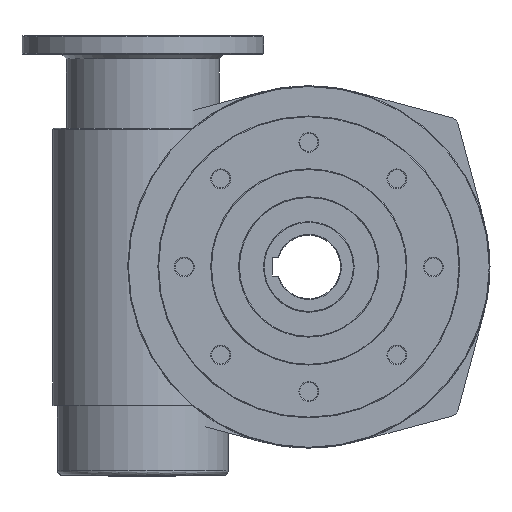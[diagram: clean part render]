
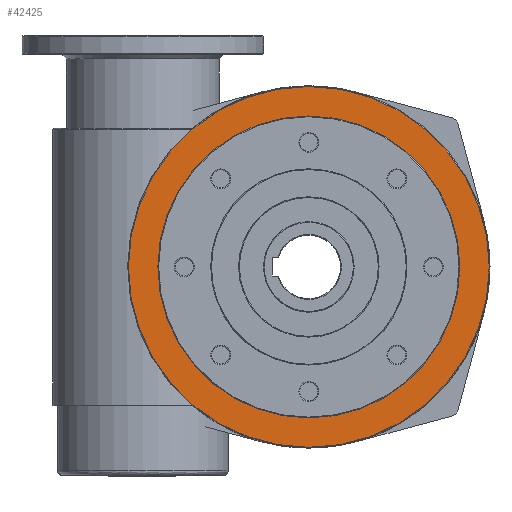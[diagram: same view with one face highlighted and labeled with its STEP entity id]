
A CAD part, left-side view. The second image highlights one B-rep face of the part: STEP entity #42425.
In plain terms, the highlighted planar face has unit normal (-1, 0, 0).
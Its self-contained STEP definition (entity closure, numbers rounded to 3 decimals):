
#1216 = ORIENTED_EDGE ( 'NONE', *, *, #14593, .F. ) ;
#1683 = DIRECTION ( 'NONE',  ( -1., 0., 0. ) ) ;
#2071 = CARTESIAN_POINT ( 'NONE',  ( -100.023, -15.816, -7.498 ) ) ;
#3741 = VERTEX_POINT ( 'NONE', #19307 ) ;
#4442 = DIRECTION ( 'NONE',  ( -1., 0., 0. ) ) ;
#5215 = CIRCLE ( 'NONE', #56502, 100. ) ;
#8502 = CARTESIAN_POINT ( 'NONE',  ( -100.023, -15.816, 112.002 ) ) ;
#9827 = DIRECTION ( 'NONE',  ( 0., 0., -1. ) ) ;
#10341 = FACE_BOUND ( 'NONE', #41602, .T. ) ;
#14593 = EDGE_CURVE ( 'NONE', #15582, #54958, #5215, .T. ) ;
#15582 = VERTEX_POINT ( 'NONE', #38340 ) ;
#16448 = ORIENTED_EDGE ( 'NONE', *, *, #38819, .F. ) ;
#18404 = CARTESIAN_POINT ( 'NONE',  ( -100.023, -15.816, -7.498 ) ) ;
#19307 = CARTESIAN_POINT ( 'NONE',  ( -100.023, -15.816, -126.998 ) ) ;
#19812 = FACE_OUTER_BOUND ( 'NONE', #41989, .T. ) ;
#20241 = ORIENTED_EDGE ( 'NONE', *, *, #47729, .F. ) ;
#22679 = PLANE ( 'NONE',  #49315 ) ;
#24391 = AXIS2_PLACEMENT_3D ( 'NONE', #18404, #56013, #51104 ) ;
#27259 = CARTESIAN_POINT ( 'NONE',  ( -100.023, -15.816, -7.498 ) ) ;
#32945 = EDGE_CURVE ( 'NONE', #42623, #3741, #55591, .T. ) ;
#37196 = AXIS2_PLACEMENT_3D ( 'NONE', #2071, #1683, #53323 ) ;
#37792 = CARTESIAN_POINT ( 'NONE',  ( -100.023, -15.816, 92.502 ) ) ;
#38340 = CARTESIAN_POINT ( 'NONE',  ( -100.023, -15.816, -107.498 ) ) ;
#38396 = DIRECTION ( 'NONE',  ( 1., 0., 0. ) ) ;
#38819 = EDGE_CURVE ( 'NONE', #3741, #42623, #39391, .T. ) ;
#39391 = CIRCLE ( 'NONE', #24391, 119.5 ) ;
#40568 = AXIS2_PLACEMENT_3D ( 'NONE', #27259, #54904, #60048 ) ;
#40968 = ORIENTED_EDGE ( 'NONE', *, *, #32945, .F. ) ;
#41602 = EDGE_LOOP ( 'NONE', ( #20241, #1216 ) ) ;
#41989 = EDGE_LOOP ( 'NONE', ( #16448, #40968 ) ) ;
#42425 = ADVANCED_FACE ( 'NONE', ( #10341, #19812 ), #22679, .F. ) ;
#42623 = VERTEX_POINT ( 'NONE', #8502 ) ;
#46107 = DIRECTION ( 'NONE',  ( 0., 0., 1. ) ) ;
#47729 = EDGE_CURVE ( 'NONE', #54958, #15582, #59620, .T. ) ;
#47849 = CARTESIAN_POINT ( 'NONE',  ( -100.023, 104.184, -7.498 ) ) ;
#49315 = AXIS2_PLACEMENT_3D ( 'NONE', #47849, #38396, #9827 ) ;
#51104 = DIRECTION ( 'NONE',  ( 0., 0., -1. ) ) ;
#53323 = DIRECTION ( 'NONE',  ( 0., 0., 1. ) ) ;
#54904 = DIRECTION ( 'NONE',  ( 1., 0., 0. ) ) ;
#54958 = VERTEX_POINT ( 'NONE', #37792 ) ;
#55591 = CIRCLE ( 'NONE', #40568, 119.5 ) ;
#55721 = CARTESIAN_POINT ( 'NONE',  ( -100.023, -15.816, -7.498 ) ) ;
#56013 = DIRECTION ( 'NONE',  ( 1., 0., 0. ) ) ;
#56502 = AXIS2_PLACEMENT_3D ( 'NONE', #55721, #4442, #46107 ) ;
#59620 = CIRCLE ( 'NONE', #37196, 100. ) ;
#60048 = DIRECTION ( 'NONE',  ( 0., 0., -1. ) ) ;
